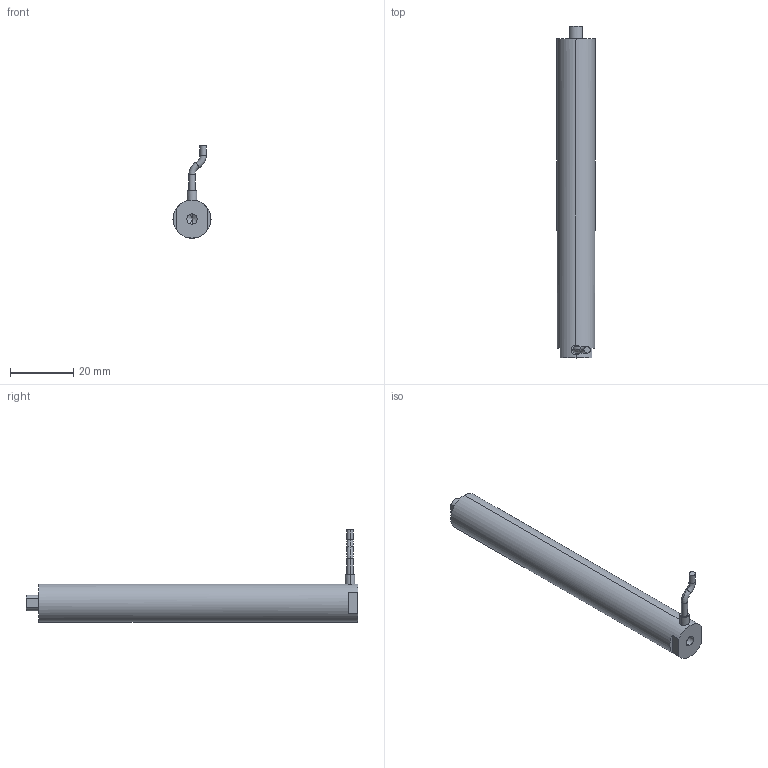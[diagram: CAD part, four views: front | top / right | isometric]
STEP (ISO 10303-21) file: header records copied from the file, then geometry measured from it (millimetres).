
FILE_DESCRIPTION (( 'STEP AP203' ), '1' );
FILE_NAME ('囀蹟恇宒100VS12.STEP', '2020-08-19T06:11:36', ( 'User' ), ( 'china' ), 'SwSTEP 2.0', 'SolidWorks 2016', '' );
FILE_SCHEMA (( 'CONFIG_CONTROL_DESIGN' ));
Products named in the file (1): 囀蹟恇宒100VS12
Bounding box: 12 x 104.6 x 29.08 mm (x, y, z)
Volume: 11407.6 mm3; surface area: 4315.8 mm2
Topology: 1 solids, 1 shells, 937 faces, 2523 edges, 1676 vertices
Faces by surface type: bspline 511, plane 313, cylinder 105, torus 4, cone 4
Entity records: 44630 total; most frequent: CARTESIAN_POINT 25632, ORIENTED_EDGE 5038, EDGE_CURVE 2519, DIRECTION 1969, B_SPLINE_CURVE_WITH_KNOTS 1682, VERTEX_POINT 1676, EDGE_LOOP 1029, ADVANCED_FACE 937
